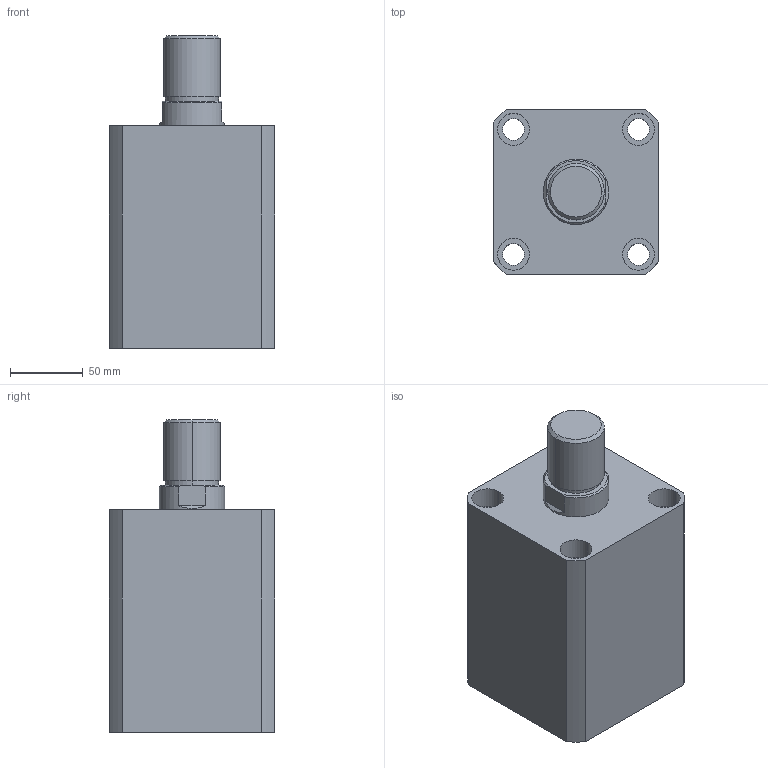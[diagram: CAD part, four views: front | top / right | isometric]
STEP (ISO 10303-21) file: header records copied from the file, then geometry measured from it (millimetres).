
FILE_DESCRIPTION (( 'STEP AP203' ), '1' );
FILE_NAME ('HTB-SDMB80-75W.STEP', '2019-10-09T06:11:05', ( '微软用户' ), ( '微软中国' ), 'SwSTEP 2.0', 'SolidWorks 2012', '' );
FILE_SCHEMA (( 'CONFIG_CONTROL_DESIGN' ));
Length unit declared in the file: millimetre
Products named in the file (3): HTB-SDMB80-75掛极; HTB-SDMB80-75W活塞杆; HTB-SDMB80-75W
Assembly tree (2 placements, depth 2):
  HTB-SDMB80-75W
    HTB-SDMB80-75掛极
    HTB-SDMB80-75W活塞杆
Bounding box: 114 x 114 x 215 mm (x, y, z)
Volume: 1652661.8 mm3; surface area: 201689.5 mm2
Topology: 2 solids, 2 shells, 141 faces, 337 edges, 222 vertices
Faces by surface type: plane 67, cylinder 48, bspline 16, torus 6, cone 4
Entity records: 5180 total; most frequent: CARTESIAN_POINT 1597, ORIENTED_EDGE 674, DIRECTION 669, EDGE_CURVE 337, AXIS2_PLACEMENT_3D 242, VERTEX_POINT 222, LINE 185, VECTOR 185
